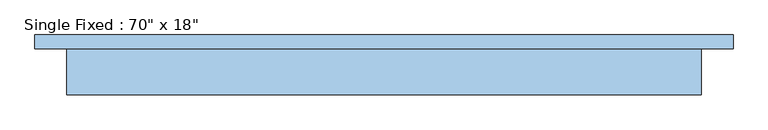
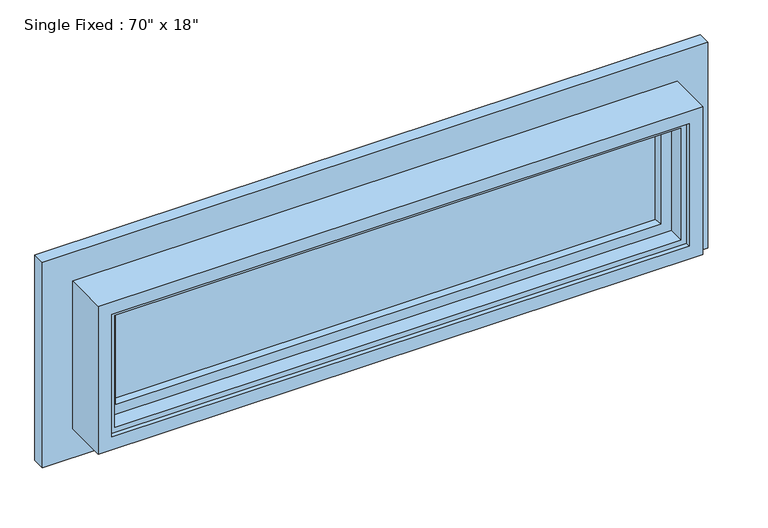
"""IFC4 building model written with IfcOpenShell, lengths in millimetres: window geometry."""

from ifc_helpers import new_model, si_unit, frame, origin, place, context, project, spatial, polyline, outline, extrude, faceted_brep, source, transform, mapped, element, save


def window_a3b314fc(model_context):
    return source(origin(), model_context, "Body", "SolidModel", [
        extrude(outline(polyline([(-800.1, 34.925), (-800.1, 38.1), (800.1, 38.1), (800.1, 34.925), (-800.1, 34.925)])), frame((0.0, 0.0, 992.1875), z_axis=(0.0, 0.0, 1.0), x_axis=(1.0, 0.0, 0.0)), (0.0, 0.0, 1.0), 301.625),
        extrude(outline(polyline([(-800.1, 57.15), (-800.1, 60.325), (800.1, 60.325), (800.1, 57.15), (-800.1, 57.15)])), frame((0.0, 0.0, 992.1875), z_axis=(0.0, 0.0, 1.0), x_axis=(1.0, 0.0, 0.0)), (0.0, 0.0, 1.0), 301.625),
        faceted_brep([(-843.2291934, -27.4446996, 1332.1791934), (-843.2291934, -41.2877, 1332.1791934), (-843.2291934, -41.2877, 953.8208066), (-843.2291934, -27.4446996, 953.8208066), (-826.7191934, 20.3326998, 1315.6691934), (-826.7191934, -27.4446996, 1315.6691934), (-826.7191934, -27.4446996, 970.3308066), (-826.7191934, 20.3326998, 970.3308066), (-787.8777478, 34.6583, 1276.8277478), (-796.1486417, 20.3326998, 1285.0986417), (-796.1486417, 20.3326998, 1000.9013583), (-787.8777478, 34.6583, 1009.1722522), (-804.8497992, 60.0583001, 1293.7997992), (-804.8497992, 34.6583, 1293.7997992), (-804.8497992, 34.6583, 992.2002008), (-804.8497992, 60.0583001, 992.2002008), (-795.634005, 67.9323001, 1284.584005), (-787.760005, 60.0583001, 1276.710005), (-787.760005, 60.0583001, 1009.289995), (-795.634005, 67.9323001, 1001.415995), (-827.0748, 72.2503, 1316.0248), (-827.0748, 67.9323001, 1316.0248), (-827.0748, 67.9323001, 969.9752), (-827.0748, 72.2503, 969.9752), (-858.669849, 87.3125, 1347.619849), (-854.6339446, 72.2503, 1343.5839446), (-854.6339446, 72.2503, 942.4160554), (-858.669849, 87.3125, 938.380151), (-882.65, -41.2877, 1371.6), (-882.65, 87.3125, 1371.6), (-882.65, 87.3125, 914.4), (-882.65, -41.2877, 914.4), (843.2291934, -41.2877, 953.8208066), (843.2291934, -27.4446996, 953.8208066), (826.7191934, -27.4446996, 970.3308066), (826.7191934, 20.3326998, 970.3308066), (796.1486417, 20.3326998, 1000.9013583), (787.8777478, 34.6583, 1009.1722522), (804.8497992, 34.6583, 992.2002008), (804.8497992, 60.0583001, 992.2002008), (787.760005, 60.0583001, 1009.289995), (795.634005, 67.9323001, 1001.415995), (827.0748, 67.9323001, 969.9752), (827.0748, 72.2503, 969.9752), (854.6339446, 72.2503, 942.4160554), (858.669849, 87.3125, 938.380151), (882.65, 87.3125, 914.4), (882.65, -41.2877, 914.4), (843.2291934, -41.2877, 1332.1791934), (843.2291934, -27.4446996, 1332.1791934), (826.7191934, -27.4446996, 1315.6691934), (826.7191934, 20.3326998, 1315.6691934), (796.1486417, 20.3326998, 1285.0986417), (787.8777478, 34.6583, 1276.8277478), (804.8497992, 34.6583, 1293.7997992), (804.8497992, 60.0583001, 1293.7997992), (787.760005, 60.0583001, 1276.710005), (795.634005, 67.9323001, 1284.584005), (827.0748, 67.9323001, 1316.0248), (827.0748, 72.2503, 1316.0248), (854.6339446, 72.2503, 1343.5839446), (858.669849, 87.3125, 1347.619849), (882.65, 87.3125, 1371.6), (882.65, -41.2877, 1371.6)], [[[0, 1, 2, 3]], [[4, 5, 6, 7]], [[8, 9, 10, 11]], [[12, 13, 14, 15]], [[16, 17, 18, 19]], [[20, 21, 22, 23]], [[24, 25, 26, 27]], [[28, 29, 30, 31]], [[3, 2, 32, 33]], [[7, 6, 34, 35]], [[11, 10, 36, 37]], [[15, 14, 38, 39]], [[19, 18, 40, 41]], [[23, 22, 42, 43]], [[27, 26, 44, 45]], [[31, 30, 46, 47]], [[33, 32, 48, 49]], [[35, 34, 50, 51]], [[37, 36, 52, 53]], [[39, 38, 54, 55]], [[41, 40, 56, 57]], [[43, 42, 58, 59]], [[45, 44, 60, 61]], [[47, 46, 62, 63]], [[49, 48, 1, 0]], [[3, 33, 49, 0], [5, 50, 34, 6]], [[51, 50, 5, 4]], [[7, 35, 51, 4], [9, 52, 36, 10]], [[53, 52, 9, 8]], [[13, 54, 38, 14], [11, 37, 53, 8]], [[55, 54, 13, 12]], [[15, 39, 55, 12], [17, 56, 40, 18]], [[57, 56, 17, 16]], [[21, 58, 42, 22], [19, 41, 57, 16]], [[59, 58, 21, 20]], [[25, 60, 44, 26], [23, 43, 59, 20]], [[61, 60, 25, 24]], [[29, 62, 46, 30], [27, 45, 61, 24]], [[63, 62, 29, 28]], [[31, 47, 63, 28], [1, 48, 32, 2]]]),
        extrude(outline(polyline([(1460.5, 971.55), (1460.5, -971.55), (825.5, -971.55), (825.5, 971.55), (1460.5, 971.55)]), holes=[polyline([(1371.6, 882.65), (914.4, 882.65), (914.4, -882.65), (1371.6, -882.65), (1371.6, 882.65)])]), frame((0.0, 87.3125, 0.0), z_axis=(0.0, 1.0, 0.0), x_axis=(0.0, 0.0, 1.0)), (0.0, 0.0, 1.0), 38.1),
    ])


if __name__ == "__main__":
    model = new_model("IFC4")
    model_context = context("Model", 3, world=origin())
    ifc_project = project(units=[si_unit("LENGTHUNIT", "METRE", prefix="MILLI")], contexts=[model_context])
    site = spatial("IfcSite", under=ifc_project)
    building = spatial("IfcBuilding", under=site)
    placement = place(None, origin())
    window_shape = window_a3b314fc(model_context)
    element("IfcWindow", 1, ObjectType="Single Fixed : 70\" x 18\"", at=placement, inside=building, context=model_context, shape_type="MappedRepresentation", body=[
        mapped(window_shape, transform((0.0, 0.0, 0.0), x_axis=(1.0, 0.0, 0.0), y_axis=(0.0, 1.0, 0.0), z_axis=(0.0, 0.0, 1.0))),
    ])
    save(model, "model.ifc")
